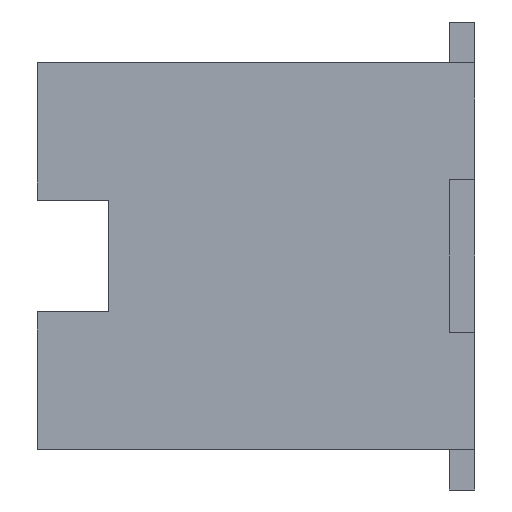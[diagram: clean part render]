
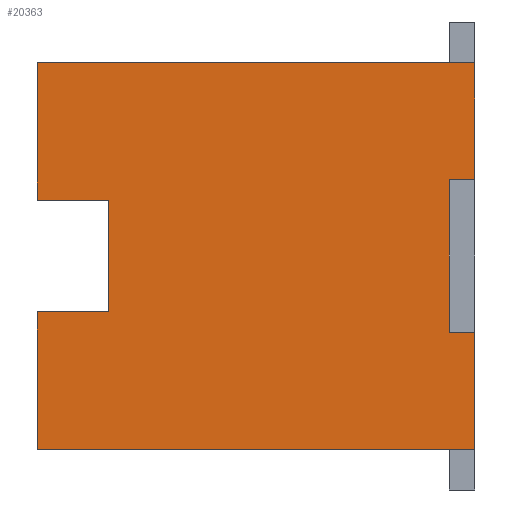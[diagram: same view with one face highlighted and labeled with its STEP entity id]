
A CAD part, left-side view. The second image highlights one B-rep face of the part: STEP entity #20363.
In plain terms, the highlighted planar face has unit normal (-1, 0, 0).
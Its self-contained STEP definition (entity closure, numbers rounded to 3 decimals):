
#5751 = ORIENTED_EDGE ( 'NONE', *, *, #20367, .F. ) ;
#6962 = VERTEX_POINT ( 'NONE', #29978 ) ;
#8764 = EDGE_CURVE ( 'NONE', #6962, #21370, #29977, .T. ) ;
#9416 = ORIENTED_EDGE ( 'NONE', *, *, #8764, .F. ) ;
#20363 = ADVANCED_FACE ( 'NONE', ( #30101 ), #30100, .F. ) ;
#20364 = EDGE_LOOP ( 'NONE', ( #20365, #21366, #21447, #21448, #9416, #5751, #20369, #20372, #20375, #20378, #20381, #20384 ) ) ;
#20365 = ORIENTED_EDGE ( 'NONE', *, *, #21373, .F. ) ;
#20366 = VERTEX_POINT ( 'NONE', #30095 ) ;
#20367 = EDGE_CURVE ( 'NONE', #20368, #6962, #30093, .T. ) ;
#20368 = VERTEX_POINT ( 'NONE', #30152 ) ;
#20369 = ORIENTED_EDGE ( 'NONE', *, *, #20370, .F. ) ;
#20370 = EDGE_CURVE ( 'NONE', #20371, #20368, #30151, .T. ) ;
#20371 = VERTEX_POINT ( 'NONE', #30147 ) ;
#20372 = ORIENTED_EDGE ( 'NONE', *, *, #20373, .F. ) ;
#20373 = EDGE_CURVE ( 'NONE', #20374, #20371, #30146, .T. ) ;
#20374 = VERTEX_POINT ( 'NONE', #30142 ) ;
#20375 = ORIENTED_EDGE ( 'NONE', *, *, #20376, .T. ) ;
#20376 = EDGE_CURVE ( 'NONE', #20374, #20377, #30141, .T. ) ;
#20377 = VERTEX_POINT ( 'NONE', #30137 ) ;
#20378 = ORIENTED_EDGE ( 'NONE', *, *, #20379, .F. ) ;
#20379 = EDGE_CURVE ( 'NONE', #20380, #20377, #30136, .T. ) ;
#20380 = VERTEX_POINT ( 'NONE', #30132 ) ;
#20381 = ORIENTED_EDGE ( 'NONE', *, *, #20382, .T. ) ;
#20382 = EDGE_CURVE ( 'NONE', #20380, #20383, #30131, .T. ) ;
#20383 = VERTEX_POINT ( 'NONE', #30127 ) ;
#20384 = ORIENTED_EDGE ( 'NONE', *, *, #20385, .T. ) ;
#20385 = EDGE_CURVE ( 'NONE', #20383, #21367, #30126, .T. ) ;
#21365 = EDGE_CURVE ( 'NONE', #21374, #20366, #31977, .T. ) ;
#21366 = ORIENTED_EDGE ( 'NONE', *, *, #21365, .F. ) ;
#21367 = VERTEX_POINT ( 'NONE', #31973 ) ;
#21370 = VERTEX_POINT ( 'NONE', #31971 ) ;
#21373 = EDGE_CURVE ( 'NONE', #20366, #21367, #31969, .T. ) ;
#21374 = VERTEX_POINT ( 'NONE', #31965 ) ;
#21446 = VERTEX_POINT ( 'NONE', #32092 ) ;
#21447 = ORIENTED_EDGE ( 'NONE', *, *, #21451, .T. ) ;
#21448 = ORIENTED_EDGE ( 'NONE', *, *, #21449, .T. ) ;
#21449 = EDGE_CURVE ( 'NONE', #21446, #21370, #32147, .T. ) ;
#21451 = EDGE_CURVE ( 'NONE', #21374, #21446, #32142, .T. ) ;
#29974 = DIRECTION ( 'NONE',  ( 0., -1., 0. ) ) ;
#29975 = VECTOR ( 'NONE', #29974, 1000. ) ;
#29976 = CARTESIAN_POINT ( 'NONE',  ( -7.35, 4.3, 1.9 ) ) ;
#29977 = LINE ( 'NONE', #29976, #29975 ) ;
#29978 = CARTESIAN_POINT ( 'NONE',  ( -7.35, 4.3, 1.9 ) ) ;
#30090 = DIRECTION ( 'NONE',  ( 0., 0., 1. ) ) ;
#30091 = VECTOR ( 'NONE', #30090, 1000. ) ;
#30092 = CARTESIAN_POINT ( 'NONE',  ( -7.35, 4.3, 1.9 ) ) ;
#30093 = LINE ( 'NONE', #30092, #30091 ) ;
#30095 = CARTESIAN_POINT ( 'NONE',  ( -7.35, 0.25, -0.75 ) ) ;
#30096 = DIRECTION ( 'NONE',  ( 0., 0., -1. ) ) ;
#30097 = DIRECTION ( 'NONE',  ( 1., 0., 0. ) ) ;
#30098 = CARTESIAN_POINT ( 'NONE',  ( -7.35, 4.3, 1.9 ) ) ;
#30099 = AXIS2_PLACEMENT_3D ( 'NONE', #30098, #30097, #30096 ) ;
#30100 = PLANE ( 'NONE',  #30099 ) ;
#30101 = FACE_OUTER_BOUND ( 'NONE', #20364, .T. ) ;
#30123 = DIRECTION ( 'NONE',  ( 0., 0., 1. ) ) ;
#30124 = VECTOR ( 'NONE', #30123, 1000. ) ;
#30125 = CARTESIAN_POINT ( 'NONE',  ( -7.35, 0., 1.9 ) ) ;
#30126 = LINE ( 'NONE', #30125, #30124 ) ;
#30127 = CARTESIAN_POINT ( 'NONE',  ( -7.35, 0., -1.9 ) ) ;
#30128 = DIRECTION ( 'NONE',  ( 0., -1., 0. ) ) ;
#30129 = VECTOR ( 'NONE', #30128, 1000. ) ;
#30130 = CARTESIAN_POINT ( 'NONE',  ( -7.35, 4.3, -1.9 ) ) ;
#30131 = LINE ( 'NONE', #30130, #30129 ) ;
#30132 = CARTESIAN_POINT ( 'NONE',  ( -7.35, 4.3, -1.9 ) ) ;
#30133 = DIRECTION ( 'NONE',  ( 0., 0., 1. ) ) ;
#30134 = VECTOR ( 'NONE', #30133, 1000. ) ;
#30135 = CARTESIAN_POINT ( 'NONE',  ( -7.35, 4.3, 1.9 ) ) ;
#30136 = LINE ( 'NONE', #30135, #30134 ) ;
#30137 = CARTESIAN_POINT ( 'NONE',  ( -7.35, 4.3, -0.55 ) ) ;
#30138 = DIRECTION ( 'NONE',  ( 0., 1., 0. ) ) ;
#30139 = VECTOR ( 'NONE', #30138, 1000. ) ;
#30140 = CARTESIAN_POINT ( 'NONE',  ( -7.35, 3.6, -0.55 ) ) ;
#30141 = LINE ( 'NONE', #30140, #30139 ) ;
#30142 = CARTESIAN_POINT ( 'NONE',  ( -7.35, 3.6, -0.55 ) ) ;
#30143 = DIRECTION ( 'NONE',  ( 0., 0., 1. ) ) ;
#30144 = VECTOR ( 'NONE', #30143, 1000. ) ;
#30145 = CARTESIAN_POINT ( 'NONE',  ( -7.35, 3.6, 0.55 ) ) ;
#30146 = LINE ( 'NONE', #30145, #30144 ) ;
#30147 = CARTESIAN_POINT ( 'NONE',  ( -7.35, 3.6, 0.55 ) ) ;
#30148 = DIRECTION ( 'NONE',  ( 0., 1., 0. ) ) ;
#30149 = VECTOR ( 'NONE', #30148, 1000. ) ;
#30150 = CARTESIAN_POINT ( 'NONE',  ( -7.35, 3.6, 0.55 ) ) ;
#30151 = LINE ( 'NONE', #30150, #30149 ) ;
#30152 = CARTESIAN_POINT ( 'NONE',  ( -7.35, 4.3, 0.55 ) ) ;
#31965 = CARTESIAN_POINT ( 'NONE',  ( -7.35, 0.25, 0.75 ) ) ;
#31966 = DIRECTION ( 'NONE',  ( 0., -1., 0. ) ) ;
#31967 = VECTOR ( 'NONE', #31966, 1000. ) ;
#31968 = CARTESIAN_POINT ( 'NONE',  ( -7.35, 0.25, -0.75 ) ) ;
#31969 = LINE ( 'NONE', #31968, #31967 ) ;
#31971 = CARTESIAN_POINT ( 'NONE',  ( -7.35, 0., 1.9 ) ) ;
#31973 = CARTESIAN_POINT ( 'NONE',  ( -7.35, 0., -0.75 ) ) ;
#31974 = DIRECTION ( 'NONE',  ( 0., 0., -1. ) ) ;
#31975 = VECTOR ( 'NONE', #31974, 1000. ) ;
#31976 = CARTESIAN_POINT ( 'NONE',  ( -7.35, 0.25, 0.75 ) ) ;
#31977 = LINE ( 'NONE', #31976, #31975 ) ;
#32092 = CARTESIAN_POINT ( 'NONE',  ( -7.35, 0., 0.75 ) ) ;
#32139 = DIRECTION ( 'NONE',  ( 0., -1., 0. ) ) ;
#32140 = VECTOR ( 'NONE', #32139, 1000. ) ;
#32141 = CARTESIAN_POINT ( 'NONE',  ( -7.35, 0.25, 0.75 ) ) ;
#32142 = LINE ( 'NONE', #32141, #32140 ) ;
#32144 = DIRECTION ( 'NONE',  ( 0., 0., 1. ) ) ;
#32145 = VECTOR ( 'NONE', #32144, 1000. ) ;
#32146 = CARTESIAN_POINT ( 'NONE',  ( -7.35, 0., 1.9 ) ) ;
#32147 = LINE ( 'NONE', #32146, #32145 ) ;
